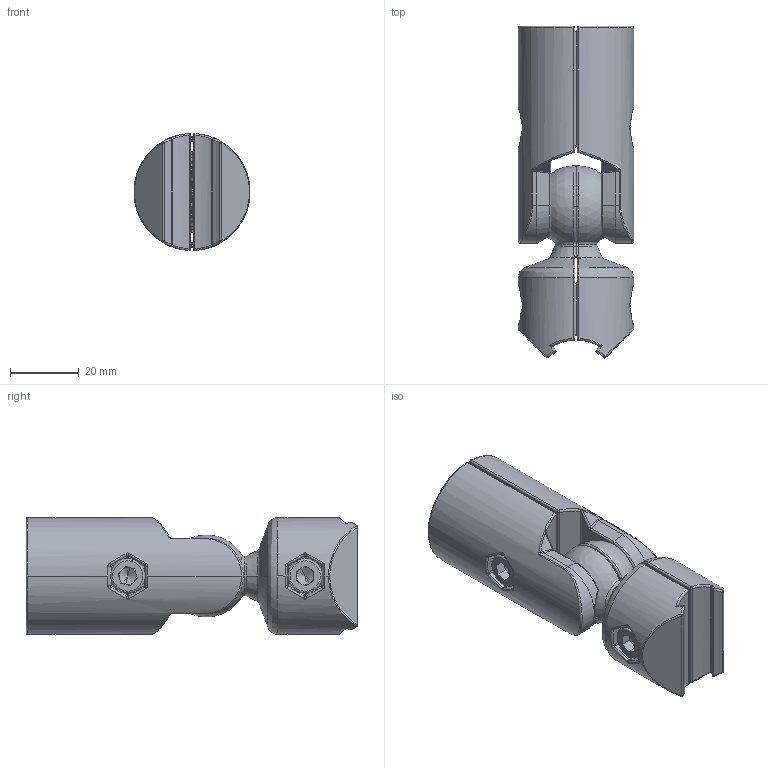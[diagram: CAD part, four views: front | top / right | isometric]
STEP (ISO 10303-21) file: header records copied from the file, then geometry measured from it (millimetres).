
FILE_DESCRIPTION (( 'STEP AP214' ), '1' );
FILE_NAME ('099rv28ks01.STEP', '2013-09-30T07:32:30', ( '' ), ( '' ), 'SwSTEP 2.0', 'SolidWorks 2012', '' );
FILE_SCHEMA (( 'AUTOMOTIVE_DESIGN' ));
Length unit declared in the file: millimetre
Products named in the file (5): 099rv28kr02; 4iso10511m06m_4iso10511m06m; 106019 - 4DIN912M0625M_DIN 912 M6 x 25 --- 25N; 099rv28kr01; 099rv28ks01
Assembly tree (8 placements, depth 2):
  099rv28ks01
    099rv28kr01  x2
    106019 - 4DIN912M0625M_DIN 912 M6 x 25 --- 25N  x2
    4iso10511m06m_4iso10511m06m  x2
    099rv28kr02  x2
Bounding box: 33.65 x 96.31 x 33.94 mm (x, y, z)
Volume: 46527.1 mm3; surface area: 29241.3 mm2
Topology: 8 solids, 8 shells, 2102 faces, 4702 edges, 2576 vertices
Faces by surface type: cylinder 544, torus 486, bspline 400, cone 266, plane 244, sphere 162
Entity records: 34230 total; most frequent: CARTESIAN_POINT 12143, DIRECTION 4760, ORIENTED_EDGE 4614, EDGE_CURVE 2307, AXIS2_PLACEMENT_3D 2082, VERTEX_POINT 1283, CIRCLE 1220, EDGE_LOOP 1076
